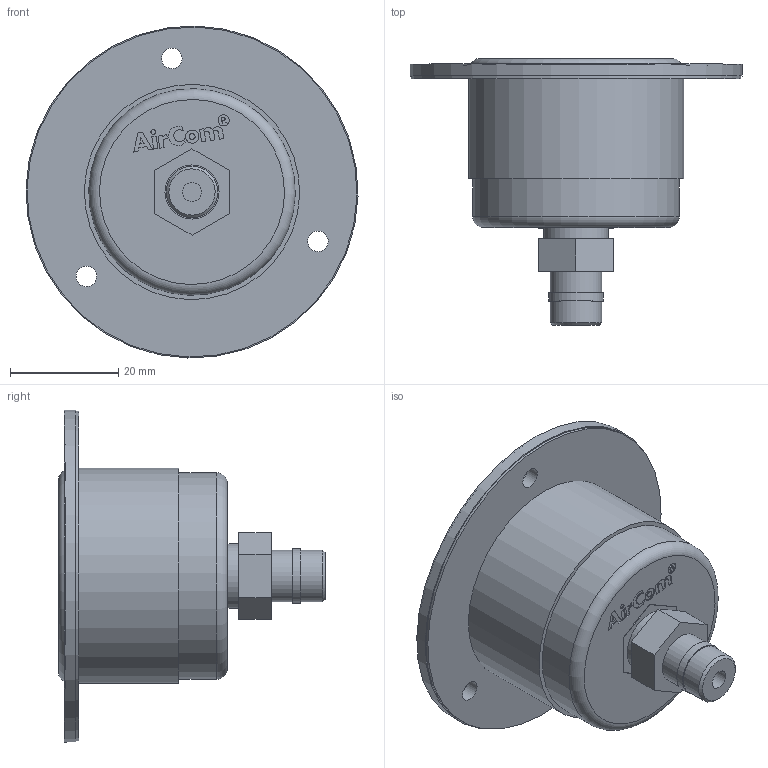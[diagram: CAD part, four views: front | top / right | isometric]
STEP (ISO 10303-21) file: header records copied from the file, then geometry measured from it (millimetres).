
FILE_DESCRIPTION((''),'2;1');
FILE_NAME('F:\AirCom-Produktdokumentation\Druckmessgeräte\ME4001\CAD\CAD AirCom\3D\B-ME4001.stp','2008-10-16T11:25:45',('Frank Schroers'),(''),'Autodesk Inventor 2008','Autodesk Inventor 2008','');
FILE_SCHEMA(('AUTOMOTIVE_DESIGN { 1 0 10303 214 1 1 1 1 }'));
Length unit declared in the file: millimetre
Products named in the file (6): B-ME4001-06-komplett; B-ME4001-06-Skala; B-ME4001-06-Anschluss; B-ME4001-06-Gehaeuse; B-ME4001-06-Glas; B-ME4001-06-Glasklemmring
Assembly tree (5 placements, depth 2):
  B-ME4001-06-komplett
    B-ME4001-06-Skala
    B-ME4001-06-Anschluss
    B-ME4001-06-Gehaeuse
    B-ME4001-06-Glas
    B-ME4001-06-Glasklemmring
Bounding box: 61.38 x 49.29 x 61.38 mm (x, y, z)
Volume: 11583 mm3; surface area: 23857.8 mm2
Topology: 5 solids, 5 shells, 1172 faces, 3164 edges, 2107 vertices
Faces by surface type: plane 775, bspline 290, cylinder 103, torus 3, cone 1
Full cylindrical faces by diameter (mm): 0.5 x2, 0.884 x1, 2.056 x1, 3.5 x1, 3.8 x6, 9.55 x2, 10 x1, 12 x1, 32.85 x2, 33.5 x1, 37.2 x1, 38.2 x1, 39.8 x1, 61 x2, 61.4 x1
Entity records: 38345 total; most frequent: CARTESIAN_POINT 10262, ORIENTED_EDGE 6264, DIRECTION 4685, EDGE_CURVE 3132, VECTOR 2221, LINE 2221, VERTEX_POINT 2107, EDGE_LOOP 1326
